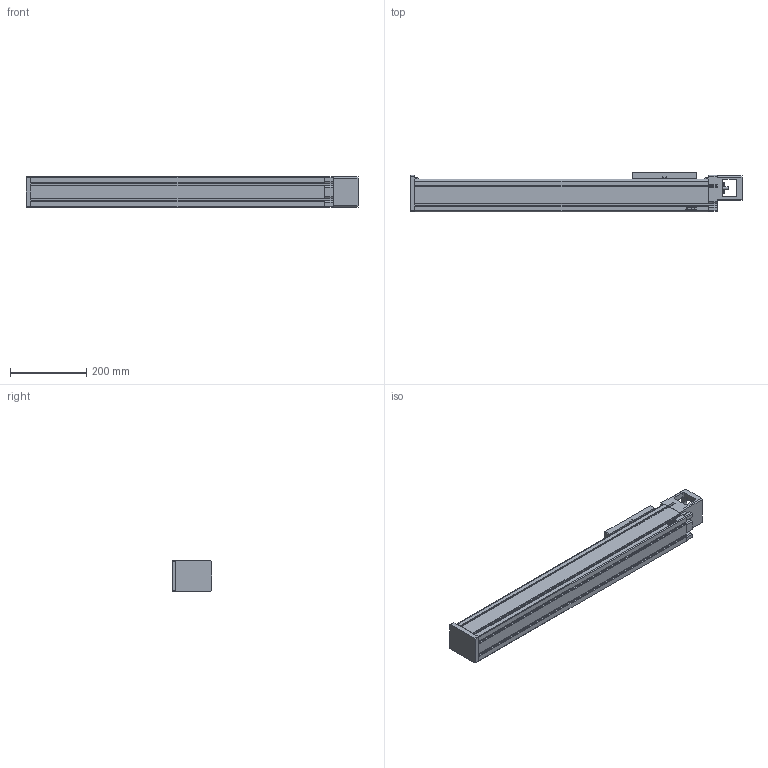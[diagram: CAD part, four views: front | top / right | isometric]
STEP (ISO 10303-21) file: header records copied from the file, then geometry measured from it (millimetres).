
FILE_DESCRIPTION(/* description */ (''),/* implementation_level */ '2;1');
FILE_NAME(/* name */ 'D:\混合母檔20191031\混和母檔\混和母檔\bin\Debug\Download\3D\KU80-5C-550AF0\KU80-5C-550AF0.stp',/* time_stamp */ '2019-11-04T16:54:13+08:00',/* author */ ('user'),/* organization */ (''),/* preprocessor_version */ 'ST-DEVELOPER v16.13',/* originating_system */ 'Autodesk Inventor 2018',/* authorisation */ '');
FILE_SCHEMA (('AUTOMOTIVE_DESIGN { 1 0 10303 214 3 1 1 }'));
Length unit declared in the file: millimetre
Products named in the file (3): KU80-5C-550AF0; KU80-F0-BP; KU80-SL
Assembly tree (2 placements, depth 2):
  KU80-5C-550AF0
    KU80-F0-BP
    KU80-SL
Bounding box: 870 x 103 x 80 mm (x, y, z)
Volume: 5475440.7 mm3; surface area: 478392.9 mm2
Topology: 2 solids, 10 shells, 862 faces, 2315 edges, 1508 vertices
Faces by surface type: plane 509, bspline 136, cylinder 104, cone 81, torus 28, sphere 4
Full cylindrical faces by diameter (mm): 2.459 x4, 2.729 x4, 3 x4, 3.242 x4, 3.5 x4, 4.134 x16, 5 x4, 5.5 x8, 5.6 x2, 8 x1, 8.5 x4, 12 x1, 46.5 x1
Entity records: 27990 total; most frequent: CARTESIAN_POINT 7413, ORIENTED_EDGE 4362, DIRECTION 3790, EDGE_CURVE 2181, VERTEX_POINT 1469, LINE 1298, VECTOR 1298, AXIS2_PLACEMENT_3D 1246
